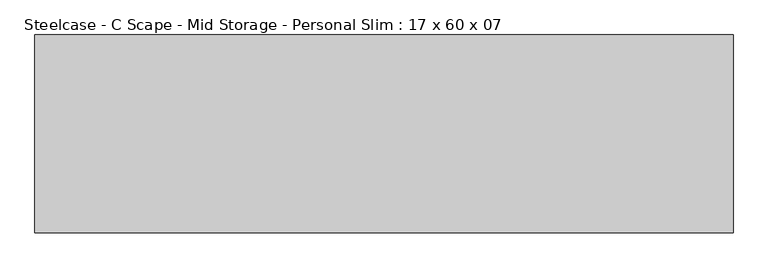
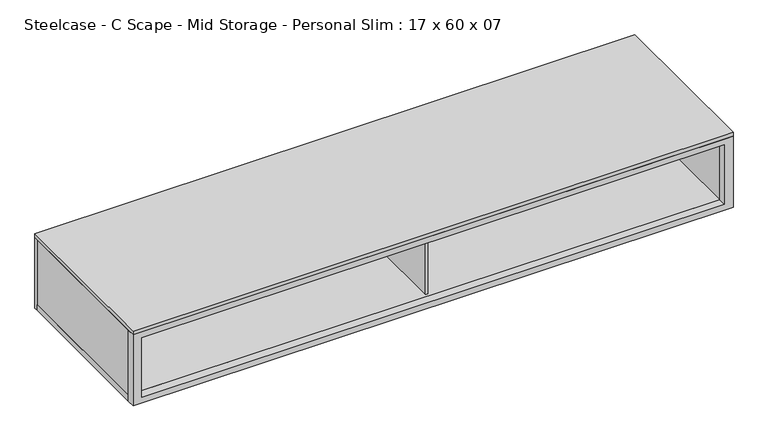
"""IFC4 building model written with IfcOpenShell, lengths in millimetres: furniture geometry, Steelcase - C Scape - Mid Storage - Personal Slim : 17 x 60 x 07."""

import ifcopenshell
import ifcopenshell.guid

model = None  # the IFC model being written
_history = None  # IfcOwnerHistory: only IFC2X3 demands one
_inside = {}  # id of a spatial element -> (the spatial element, [elements in it])
_under = {}  # id of a project, library or spatial element -> (it, [spatial elements below it])
_declared = {}  # id of a project -> (the project, [libraries it declares])
_typed = {}  # id of a type object -> (the type object, [elements of that type])
_made_of = {}  # id of a material, layer set ... -> (it, [elements and type objects made of it])


def new_model(schema):
    """Start an empty IFC model of exactly this schema.

    Asked for "IFC4X3", IfcOpenShell would pick the latest addendum, in which some entities
    have other attributes; the version numbers below select the first issue.
    IFC2X3 requires an IfcOwnerHistory on every rooted entity: one is made here for all.
    """
    global model, _history
    if schema == "IFC4X3":
        model = ifcopenshell.file(schema_version=(4, 3, 0, 0))
    else:
        model = ifcopenshell.file(schema=schema)
    _inside.clear()
    _under.clear()
    _declared.clear()
    _typed.clear()
    _made_of.clear()
    _history = None
    if model.schema == "IFC2X3":
        org = make("IfcOrganization", Name="unknown")
        user = make(
            "IfcPersonAndOrganization",
            ThePerson=make("IfcPerson", FamilyName="unknown"),
            TheOrganization=org,
        )
        app = make(
            "IfcApplication",
            ApplicationDeveloper=org,
            Version="unknown",
            ApplicationFullName="unknown",
            ApplicationIdentifier="unknown",
        )
        _history = make(
            "IfcOwnerHistory",
            OwningUser=user,
            OwningApplication=app,
            ChangeAction="ADDED",
            CreationDate=0,
        )
    return model


def make(cls, **values):
    """One entity of the class cls with the attributes given. An attribute that is None is left unset."""
    return model.create_entity(
        cls, **{name: value for name, value in values.items() if value is not None}
    )


def rooted(cls, **values):
    """An entity with a GlobalId (a new one), such as an element, a storey or a relation."""
    return make(cls, GlobalId=ifcopenshell.guid.new(), OwnerHistory=_history, **values)


def si_unit(unit_type, name, prefix=None):
    """IfcSIUnit, for example si_unit("LENGTHUNIT", "METRE", prefix="MILLI")."""
    return make("IfcSIUnit", UnitType=unit_type, Prefix=prefix, Name=name)


def assignment(units):
    """IfcUnitAssignment: the units of a project."""
    return None if units is None else make("IfcUnitAssignment", Units=units)


def point(xyz):
    """IfcCartesianPoint."""
    return None if xyz is None else make("IfcCartesianPoint", Coordinates=xyz)


def direction(xyz):
    """IfcDirection."""
    return None if xyz is None else make("IfcDirection", DirectionRatios=xyz)


def frame(location, z_axis=None, x_axis=None):
    """IfcAxis2Placement3D, a coordinate frame: its origin and axes. An axis left out is left unset."""
    return make(
        "IfcAxis2Placement3D",
        Location=point(location),
        Axis=direction(z_axis),
        RefDirection=direction(x_axis),
    )


def origin():
    """The frame at (0, 0, 0) with its axes left unset."""
    return frame((0.0, 0.0, 0.0))


def place(relative_to, where):
    """IfcLocalPlacement: puts the frame where relative to a parent placement (None: the world)."""
    return make(
        "IfcLocalPlacement", PlacementRelTo=relative_to, RelativePlacement=where
    )


def context(
    kind, dimensions, precision=None, world=None, true_north=None, identifier=None
):
    """IfcGeometricRepresentationContext, for example the 3D "Model" context."""
    return make(
        "IfcGeometricRepresentationContext",
        ContextIdentifier=identifier,
        ContextType=kind,
        CoordinateSpaceDimension=dimensions,
        Precision=precision,
        WorldCoordinateSystem=world,
        TrueNorth=true_north,
    )


def project(units=None, contexts=None):
    """IfcProject with its units and contexts."""
    return rooted(
        "IfcProject",
        Name="project",
        RepresentationContexts=contexts,
        UnitsInContext=assignment(units),
    )


def spatial(cls, under=None, at=None, **own):
    """A site, building, storey or space (cls), placed at a placement, below another one or the project."""
    s = rooted(cls, ObjectPlacement=at, **own)
    if under is not None:
        _under.setdefault(under.id(), (under, []))[1].append(s)
    return s


def polyline(points):
    """IfcPolyline through the points."""
    return make("IfcPolyline", Points=[point(p) for p in points])


def outline(outer, holes=None, kind="AREA"):
    """IfcArbitraryClosedProfileDef: a profile drawn as a closed curve; with holes, ...WithVoids."""
    if holes is None:
        return make("IfcArbitraryClosedProfileDef", ProfileType=kind, OuterCurve=outer)
    return make(
        "IfcArbitraryProfileDefWithVoids",
        ProfileType=kind,
        OuterCurve=outer,
        InnerCurves=holes,
    )


def extrude(swept, where, along, depth):
    """IfcExtrudedAreaSolid: the profile swept, set in the frame where, extruded along a direction by depth."""
    return make(
        "IfcExtrudedAreaSolid",
        SweptArea=swept,
        Position=where,
        ExtrudedDirection=direction(along),
        Depth=depth,
    )


def shape(context_of_items, identifier, shape_type, items):
    """IfcShapeRepresentation: the items that make up one representation, for example the "Body"."""
    return make(
        "IfcShapeRepresentation",
        ContextOfItems=context_of_items,
        RepresentationIdentifier=identifier,
        RepresentationType=shape_type,
        Items=items,
    )


def source(mapping_origin, context_of_items, identifier, shape_type, items):
    """IfcRepresentationMap: a shape defined once, which mapped items show again and again."""
    return make(
        "IfcRepresentationMap",
        MappingOrigin=mapping_origin,
        MappedRepresentation=shape(context_of_items, identifier, shape_type, items),
    )


def transform(
    local_origin,
    x_axis=None,
    y_axis=None,
    z_axis=None,
    scale=None,
    scale2=None,
    scale3=None,
    uniform=True,
):
    """IfcCartesianTransformationOperator3D, or its non-uniform kind. x_axis, y_axis, z_axis: its Axis1, 2, 3."""
    if uniform:
        return make(
            "IfcCartesianTransformationOperator3D",
            Axis1=direction(x_axis),
            Axis2=direction(y_axis),
            LocalOrigin=point(local_origin),
            Scale=scale,
            Axis3=direction(z_axis),
        )
    return make(
        "IfcCartesianTransformationOperator3DnonUniform",
        Axis1=direction(x_axis),
        Axis2=direction(y_axis),
        LocalOrigin=point(local_origin),
        Scale=scale,
        Axis3=direction(z_axis),
        Scale2=scale2,
        Scale3=scale3,
    )


def mapped(mapping_source, mapping_target):
    """IfcMappedItem: shows the shape of a source again, moved by a transform."""
    return make(
        "IfcMappedItem", MappingSource=mapping_source, MappingTarget=mapping_target
    )


def made_of(thing, what):
    """Note that an element or type object is made of a material, layer set ...; save() writes the relation."""
    if what is not None:
        _made_of.setdefault(what.id(), (what, []))[1].append(thing)
    return thing


def element(
    cls,
    number,
    at=None,
    inside=None,
    cuts=None,
    type_object=None,
    material=None,
    context=None,
    identifier="Body",
    shape_type=None,
    held_by="IfcProductDefinitionShape",
    body=None,
    shapes=None,
    **own,
):
    """One element of the class cls, such as IfcWall. Its Tag is "e" and its number.

    at: its placement. inside: the storey or other place that contains it. cuts: it is an
    opening in that element (IfcRelVoidsElement). A single representation is given by context,
    identifier, shape_type and body (its items); several are given by shapes. held_by: the class
    of the entity that holds the representations. save() writes the other relations.
    """
    e = rooted(cls, Tag="e%d" % number, ObjectPlacement=at, **own)
    if body is not None:
        shapes = [shape(context, identifier, shape_type, body)]
    if shapes is not None:
        e.Representation = make(held_by, Representations=shapes)
    if inside is not None:
        _inside.setdefault(inside.id(), (inside, []))[1].append(e)
    if cuts is not None:
        rooted(
            "IfcRelVoidsElement", RelatingBuildingElement=cuts, RelatedOpeningElement=e
        )
    if type_object is not None:
        _typed.setdefault(type_object.id(), (type_object, []))[1].append(e)
    return made_of(e, material)


def aggregate(whole, parts):
    """IfcRelAggregates: a whole, such as a stair, and the parts it consists of."""
    return rooted("IfcRelAggregates", RelatingObject=whole, RelatedObjects=parts)


def save(model, path):
    """Write the relations noted so far, then the file.

    IfcRelAggregates (storeys below a building ...), IfcRelContainedInSpatialStructure (elements
    in a storey), IfcRelDefinesByType, IfcRelAssociatesMaterial and IfcRelDeclares: one each for
    every whole, place, type object, material and project.
    """
    for whole, parts in _under.values():
        aggregate(whole, parts)
    for where, things in _inside.values():
        rooted(
            "IfcRelContainedInSpatialStructure",
            RelatedElements=things,
            RelatingStructure=where,
        )
    for kind, things in _typed.values():
        rooted("IfcRelDefinesByType", RelatedObjects=things, RelatingType=kind)
    for what, things in _made_of.values():
        rooted("IfcRelAssociatesMaterial", RelatedObjects=things, RelatingMaterial=what)
    for by, libraries in _declared.values():
        rooted("IfcRelDeclares", RelatingContext=by, RelatedDefinitions=libraries)
    model.write(path)


def steelcase_c_scape_mid_storage_personal_slim_17_x_60_x_07_8f4ae72a(model_context):
    return source(origin(), model_context, "Body", "SweptSolid", [
        extrude(outline(polyline([(1028.7, 1524.0), (1028.7, 0.0), (838.2, 0.0), (838.2, 1524.0), (1028.7, 1524.0)]), holes=[polyline([(853.4399855, 21.9711633), (1013.46, 21.9711633), (1013.46, 1501.902), (853.4399855, 1501.902), (853.4399855, 21.9711633)])]), frame((0.0, -215.9, 0.0), z_axis=(0.0, 1.0, 0.0), x_axis=(0.0, 0.0, 1.0)), (0.0, 0.0, 1.0), 21.4627892),
        extrude(outline(polyline([(1524.0, 206.3755809), (1524.0, -194.4372108), (0.0, -194.4372108), (0.0, 206.3755809), (1524.0, 206.3755809)])), frame((0.0, 0.0, 838.2), z_axis=(0.0, 0.0, 1.0), x_axis=(1.0, 0.0, 0.0)), (0.0, 0.0, 1.0), 15.2399855),
        extrude(outline(polyline([(1524.0, 215.9), (1524.0, -215.9), (0.0, -215.9), (0.0, 215.9), (1524.0, 215.9)])), frame((0.0, 0.0, 1028.7), z_axis=(0.0, 0.0, 1.0), x_axis=(1.0, 0.0, 0.0)), (0.0, 0.0, 1.0), 10.1599903),
        extrude(outline(polyline([(1524.0, 215.9), (1524.0, 206.3755809), (0.0, 206.3755809), (0.0, 215.9), (1524.0, 215.9)])), frame((0.0, 0.0, 838.2), z_axis=(0.0, 0.0, 1.0), x_axis=(1.0, 0.0, 0.0)), (0.0, 0.0, 1.0), 190.5),
        extrude(outline(polyline([(21.9711633, 206.3755809), (21.9711633, -194.4372108), (0.0, -194.4372108), (0.0, 206.3755809), (21.9711633, 206.3755809)])), frame((0.0, 0.0, 853.4399855), z_axis=(0.0, 0.0, 1.0), x_axis=(1.0, 0.0, 0.0)), (0.0, 0.0, 1.0), 175.2600145),
        extrude(outline(polyline([(1501.902, 206.3755809), (1524.0, 206.3755809), (1524.0, -194.4372108), (1501.902, -194.4372108), (1501.902, 206.3755809)])), frame((0.0, 0.0, 853.4399855), z_axis=(0.0, 0.0, 1.0), x_axis=(1.0, 0.0, 0.0)), (0.0, 0.0, 1.0), 175.2600145),
        extrude(outline(polyline([(758.825, -187.1471039), (758.825, 206.3755809), (765.175, 206.3755809), (765.175, -187.1471039), (758.825, -187.1471039)])), frame((0.0, 0.0, 853.4399855), z_axis=(0.0, 0.0, 1.0), x_axis=(1.0, 0.0, 0.0)), (0.0, 0.0, 1.0), 160.0200145),
    ])


if __name__ == "__main__":
    model = new_model("IFC4")
    model_context = context("Model", 3, world=origin())
    ifc_project = project(units=[si_unit("LENGTHUNIT", "METRE", prefix="MILLI")], contexts=[model_context])
    site = spatial("IfcSite", under=ifc_project)
    building = spatial("IfcBuilding", under=site)
    placement = place(None, origin())
    steelcase_c_scape_mid_storage_personal_slim_17_x_60_x_07_shape = steelcase_c_scape_mid_storage_personal_slim_17_x_60_x_07_8f4ae72a(model_context)
    element("IfcFurniture", 1, ObjectType="Steelcase - C Scape - Mid Storage - Personal Slim : 17 x 60 x 07", at=placement, inside=building, context=model_context, shape_type="MappedRepresentation", body=[
        mapped(steelcase_c_scape_mid_storage_personal_slim_17_x_60_x_07_shape, transform((0.0, 0.0, 0.0), x_axis=(1.0, 0.0, 0.0), y_axis=(0.0, 1.0, 0.0), z_axis=(0.0, 0.0, 1.0))),
    ])
    save(model, "model.ifc")
